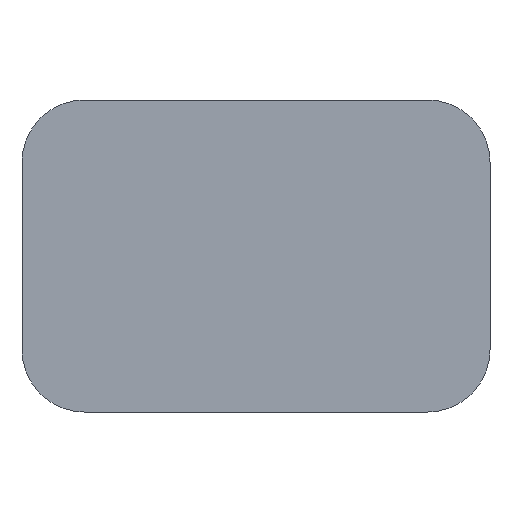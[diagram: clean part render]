
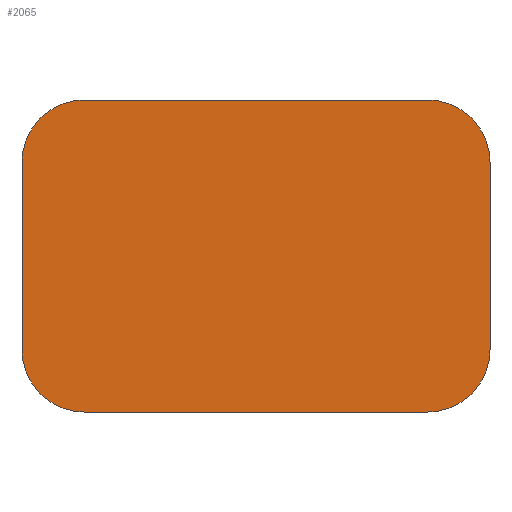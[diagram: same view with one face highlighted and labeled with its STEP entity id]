
A CAD part, front view. The second image highlights one B-rep face of the part: STEP entity #2065.
In plain terms, the highlighted planar face has unit normal (0, -1, 0).
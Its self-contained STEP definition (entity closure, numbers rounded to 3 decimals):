
#26 = CARTESIAN_POINT ( 'NONE',  ( 55., 0., 30. ) ) ;
#30 = EDGE_LOOP ( 'NONE', ( #1274, #1276, #1607, #1792, #1208, #303, #709, #1014 ) ) ;
#45 = EDGE_CURVE ( 'NONE', #1417, #957, #1066, .T. ) ;
#68 = CARTESIAN_POINT ( 'NONE',  ( -75., 0., 50. ) ) ;
#81 = CIRCLE ( 'NONE', #551, 20. ) ;
#139 = AXIS2_PLACEMENT_3D ( 'NONE', #1248, #2070, #915 ) ;
#154 = CARTESIAN_POINT ( 'NONE',  ( 75., 0., 50. ) ) ;
#163 = LINE ( 'NONE', #1939, #994 ) ;
#198 = EDGE_CURVE ( 'NONE', #364, #212, #845, .T. ) ;
#212 = VERTEX_POINT ( 'NONE', #1621 ) ;
#303 = ORIENTED_EDGE ( 'NONE', *, *, #462, .F. ) ;
#321 = DIRECTION ( 'NONE',  ( 0., -1., 0. ) ) ;
#364 = VERTEX_POINT ( 'NONE', #1907 ) ;
#405 = AXIS2_PLACEMENT_3D ( 'NONE', #1271, #506, #973 ) ;
#462 = EDGE_CURVE ( 'NONE', #814, #212, #163, .T. ) ;
#481 = CARTESIAN_POINT ( 'NONE',  ( 75., 0., -30. ) ) ;
#484 = VERTEX_POINT ( 'NONE', #481 ) ;
#496 = DIRECTION ( 'NONE',  ( 0., 0., -1. ) ) ;
#506 = DIRECTION ( 'NONE',  ( 0., -1., 0. ) ) ;
#513 = EDGE_CURVE ( 'NONE', #1417, #1840, #81, .T. ) ;
#532 = EDGE_CURVE ( 'NONE', #1077, #484, #1454, .T. ) ;
#551 = AXIS2_PLACEMENT_3D ( 'NONE', #1948, #321, #1473 ) ;
#564 = CARTESIAN_POINT ( 'NONE',  ( 75., 0., 30. ) ) ;
#648 = CARTESIAN_POINT ( 'NONE',  ( 55., 0., 50. ) ) ;
#705 = EDGE_CURVE ( 'NONE', #814, #484, #790, .T. ) ;
#706 = LINE ( 'NONE', #68, #817 ) ;
#709 = ORIENTED_EDGE ( 'NONE', *, *, #705, .T. ) ;
#714 = DIRECTION ( 'NONE',  ( 0., 0., 1. ) ) ;
#766 = CARTESIAN_POINT ( 'NONE',  ( -75., 0., 50. ) ) ;
#790 = CIRCLE ( 'NONE', #891, 20. ) ;
#814 = VERTEX_POINT ( 'NONE', #1726 ) ;
#817 = VECTOR ( 'NONE', #714, 1000. ) ;
#845 = CIRCLE ( 'NONE', #405, 20. ) ;
#872 = CARTESIAN_POINT ( 'NONE',  ( -55., 0., 50. ) ) ;
#891 = AXIS2_PLACEMENT_3D ( 'NONE', #1900, #1431, #1561 ) ;
#915 = DIRECTION ( 'NONE',  ( 0., 0., -1. ) ) ;
#918 = DIRECTION ( 'NONE',  ( 1., 0., 0. ) ) ;
#928 = VECTOR ( 'NONE', #918, 1000. ) ;
#939 = FACE_OUTER_BOUND ( 'NONE', #30, .T. ) ;
#957 = VERTEX_POINT ( 'NONE', #648 ) ;
#973 = DIRECTION ( 'NONE',  ( 0., 0., -1. ) ) ;
#980 = DIRECTION ( 'NONE',  ( -1., 0., 0. ) ) ;
#984 = AXIS2_PLACEMENT_3D ( 'NONE', #26, #1307, #1959 ) ;
#994 = VECTOR ( 'NONE', #980, 1000. ) ;
#1014 = ORIENTED_EDGE ( 'NONE', *, *, #532, .F. ) ;
#1066 = LINE ( 'NONE', #766, #928 ) ;
#1077 = VERTEX_POINT ( 'NONE', #564 ) ;
#1202 = CARTESIAN_POINT ( 'NONE',  ( -75., 0., 30. ) ) ;
#1208 = ORIENTED_EDGE ( 'NONE', *, *, #198, .T. ) ;
#1248 = CARTESIAN_POINT ( 'NONE',  ( 0., 0., 0. ) ) ;
#1271 = CARTESIAN_POINT ( 'NONE',  ( -55., 0., -30. ) ) ;
#1274 = ORIENTED_EDGE ( 'NONE', *, *, #1834, .T. ) ;
#1276 = ORIENTED_EDGE ( 'NONE', *, *, #45, .F. ) ;
#1307 = DIRECTION ( 'NONE',  ( 0., -1., 0. ) ) ;
#1363 = VECTOR ( 'NONE', #496, 1000. ) ;
#1417 = VERTEX_POINT ( 'NONE', #872 ) ;
#1431 = DIRECTION ( 'NONE',  ( 0., -1., 0. ) ) ;
#1454 = LINE ( 'NONE', #154, #1363 ) ;
#1473 = DIRECTION ( 'NONE',  ( 0., 0., -1. ) ) ;
#1561 = DIRECTION ( 'NONE',  ( 0., 0., -1. ) ) ;
#1596 = PLANE ( 'NONE',  #139 ) ;
#1607 = ORIENTED_EDGE ( 'NONE', *, *, #513, .T. ) ;
#1621 = CARTESIAN_POINT ( 'NONE',  ( -55., 0., -50. ) ) ;
#1726 = CARTESIAN_POINT ( 'NONE',  ( 55., 0., -50. ) ) ;
#1792 = ORIENTED_EDGE ( 'NONE', *, *, #1935, .F. ) ;
#1834 = EDGE_CURVE ( 'NONE', #1077, #957, #1967, .T. ) ;
#1840 = VERTEX_POINT ( 'NONE', #1202 ) ;
#1900 = CARTESIAN_POINT ( 'NONE',  ( 55., 0., -30. ) ) ;
#1907 = CARTESIAN_POINT ( 'NONE',  ( -75., 0., -30. ) ) ;
#1935 = EDGE_CURVE ( 'NONE', #364, #1840, #706, .T. ) ;
#1939 = CARTESIAN_POINT ( 'NONE',  ( -75., 0., -50. ) ) ;
#1948 = CARTESIAN_POINT ( 'NONE',  ( -55., 0., 30. ) ) ;
#1959 = DIRECTION ( 'NONE',  ( 0., 0., -1. ) ) ;
#1967 = CIRCLE ( 'NONE', #984, 20. ) ;
#2065 = ADVANCED_FACE ( 'NONE', ( #939 ), #1596, .T. ) ;
#2070 = DIRECTION ( 'NONE',  ( 0., -1., 0. ) ) ;
